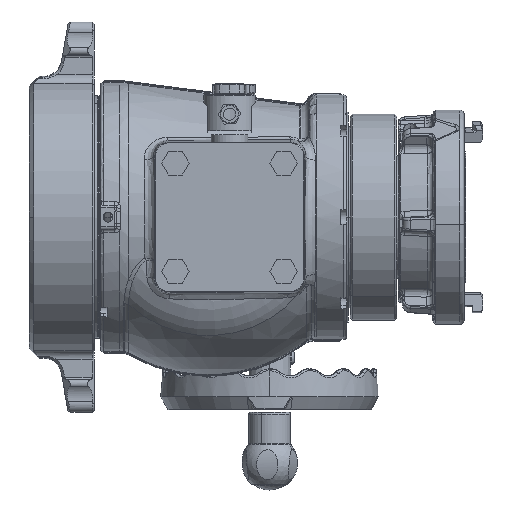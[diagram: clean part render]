
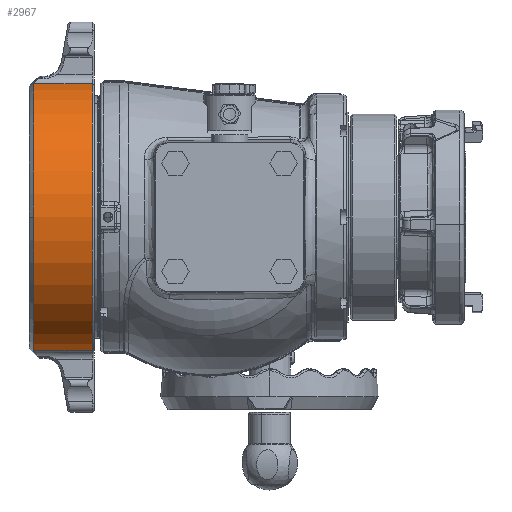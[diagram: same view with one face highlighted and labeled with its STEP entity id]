
A CAD part, front view. The second image highlights one B-rep face of the part: STEP entity #2967.
In plain terms, the highlighted cylindrical face has radius 98.425 mm (diameter 196.85 mm), a partial arc.
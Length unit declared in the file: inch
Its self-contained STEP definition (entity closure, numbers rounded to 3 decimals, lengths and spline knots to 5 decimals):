
#2967 = ADVANCED_FACE ( 'NONE', ( #131610 ), #131625, .T. ) ;
#8193 = AXIS2_PLACEMENT_3D ( 'NONE', #133416, #133414, #133409 ) ;
#31069 = CARTESIAN_POINT ( 'NONE',  ( -4.33165, -1.13098, -3.81329 ) ) ;
#31077 = CARTESIAN_POINT ( 'NONE',  ( -4.33165, -1.13098, 3.81329 ) ) ;
#31083 = CARTESIAN_POINT ( 'NONE',  ( -6.00715, -1.13098, -3.81329 ) ) ;
#31290 = CARTESIAN_POINT ( 'NONE',  ( -6.00715, -1.13098, 3.81329 ) ) ;
#31298 = CARTESIAN_POINT ( 'NONE',  ( -6.00715, -4.31719, 0. ) ) ;
#40151 = DIRECTION ( 'NONE',  ( 1., 0., 0. ) ) ;
#40153 = CARTESIAN_POINT ( 'NONE',  ( -6.13215, -1.13098, -3.81329 ) ) ;
#40174 = CARTESIAN_POINT ( 'NONE',  ( -6.13215, -1.13098, 3.81329 ) ) ;
#40177 = DIRECTION ( 'NONE',  ( 1., 0., 0. ) ) ;
#40214 = CARTESIAN_POINT ( 'NONE',  ( -4.33165, -0.44219, 0. ) ) ;
#40216 = DIRECTION ( 'NONE',  ( -1., 0., 0. ) ) ;
#40218 = DIRECTION ( 'NONE',  ( 0., 0., -1. ) ) ;
#40227 = CARTESIAN_POINT ( 'NONE',  ( -6.00715, -0.44219, 0. ) ) ;
#40228 = DIRECTION ( 'NONE',  ( -1., 0., 0. ) ) ;
#40229 = DIRECTION ( 'NONE',  ( 0., 1., 0. ) ) ;
#44721 = VERTEX_POINT ( 'NONE', #31069 ) ;
#44726 = VERTEX_POINT ( 'NONE', #31077 ) ;
#44727 = VERTEX_POINT ( 'NONE', #31083 ) ;
#44911 = VERTEX_POINT ( 'NONE', #31290 ) ;
#44912 = VERTEX_POINT ( 'NONE', #31298 ) ;
#55844 = EDGE_LOOP ( 'NONE', ( #140194, #140196, #140197, #140200, #140202 ) ) ;
#73634 = AXIS2_PLACEMENT_3D ( 'NONE', #97324, #97326, #97328 ) ;
#73662 = AXIS2_PLACEMENT_3D ( 'NONE', #40214, #40216, #40218 ) ;
#73663 = AXIS2_PLACEMENT_3D ( 'NONE', #40227, #40228, #40229 ) ;
#97324 = CARTESIAN_POINT ( 'NONE',  ( -6.00715, -0.44219, 0. ) ) ;
#97326 = DIRECTION ( 'NONE',  ( -1., 0., 0. ) ) ;
#97328 = DIRECTION ( 'NONE',  ( 0., 1., 0. ) ) ;
#101173 = CIRCLE ( 'NONE', #73634, 3.875 ) ;
#101445 = LINE ( 'NONE', #40174, #101465 ) ;
#101456 = LINE ( 'NONE', #40153, #101461 ) ;
#101461 = VECTOR ( 'NONE', #40151, 39.37008 ) ;
#101462 = CIRCLE ( 'NONE', #73662, 3.875 ) ;
#101463 = CIRCLE ( 'NONE', #73663, 3.875 ) ;
#101465 = VECTOR ( 'NONE', #40177, 39.37008 ) ;
#109004 = EDGE_CURVE ( 'NONE', #44912, #44911, #101173, .T. ) ;
#109167 = EDGE_CURVE ( 'NONE', #44727, #44721, #101456, .T. ) ;
#109169 = EDGE_CURVE ( 'NONE', #44721, #44726, #101462, .T. ) ;
#109170 = EDGE_CURVE ( 'NONE', #44911, #44726, #101445, .T. ) ;
#109171 = EDGE_CURVE ( 'NONE', #44727, #44912, #101463, .T. ) ;
#131610 = FACE_OUTER_BOUND ( 'NONE', #55844, .T. ) ;
#131625 = CYLINDRICAL_SURFACE ( 'NONE', #8193, 3.875 ) ;
#133409 = DIRECTION ( 'NONE',  ( 0., 0., -1. ) ) ;
#133414 = DIRECTION ( 'NONE',  ( 1., 0., 0. ) ) ;
#133416 = CARTESIAN_POINT ( 'NONE',  ( -6.13215, -0.44219, 0. ) ) ;
#140194 = ORIENTED_EDGE ( 'NONE', *, *, #109167, .T. ) ;
#140196 = ORIENTED_EDGE ( 'NONE', *, *, #109169, .T. ) ;
#140197 = ORIENTED_EDGE ( 'NONE', *, *, #109170, .F. ) ;
#140200 = ORIENTED_EDGE ( 'NONE', *, *, #109004, .F. ) ;
#140202 = ORIENTED_EDGE ( 'NONE', *, *, #109171, .F. ) ;
